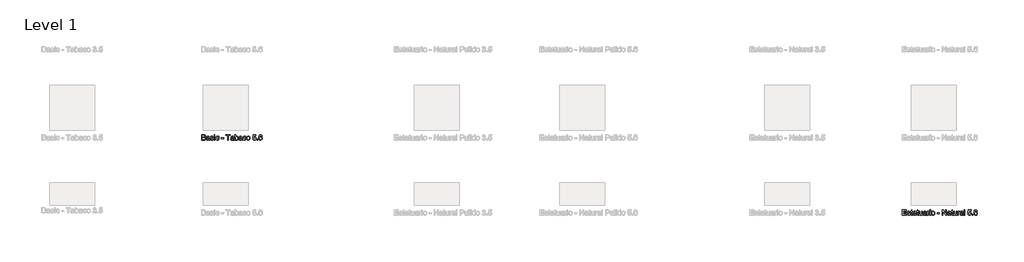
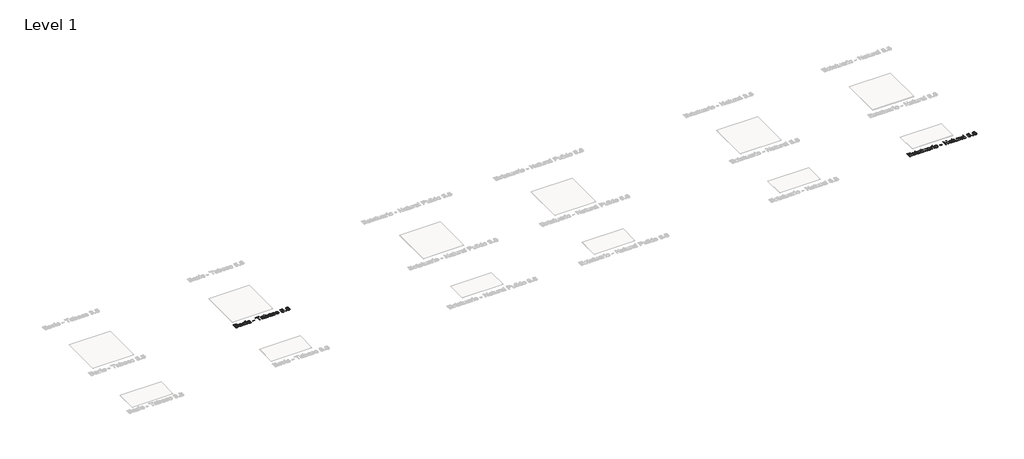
# One storey, part 75 of 80: 2 proxies.
"""IFC4 building model written with IfcOpenShell, lengths in millimetres."""

import ifcopenshell
import ifcopenshell.guid

model = None  # the IFC model being written
_history = None  # IfcOwnerHistory: only IFC2X3 demands one
_inside = {}  # id of a spatial element -> (the spatial element, [elements in it])
_under = {}  # id of a project, library or spatial element -> (it, [spatial elements below it])
_declared = {}  # id of a project -> (the project, [libraries it declares])
_typed = {}  # id of a type object -> (the type object, [elements of that type])
_made_of = {}  # id of a material, layer set ... -> (it, [elements and type objects made of it])


def new_model(schema):
    """Start an empty IFC model of exactly this schema.

    Asked for "IFC4X3", IfcOpenShell would pick the latest addendum, in which some entities
    have other attributes; the version numbers below select the first issue.
    IFC2X3 requires an IfcOwnerHistory on every rooted entity: one is made here for all.
    """
    global model, _history
    if schema == "IFC4X3":
        model = ifcopenshell.file(schema_version=(4, 3, 0, 0))
    else:
        model = ifcopenshell.file(schema=schema)
    _inside.clear()
    _under.clear()
    _declared.clear()
    _typed.clear()
    _made_of.clear()
    _history = None
    if model.schema == "IFC2X3":
        org = make("IfcOrganization", Name="unknown")
        user = make(
            "IfcPersonAndOrganization",
            ThePerson=make("IfcPerson", FamilyName="unknown"),
            TheOrganization=org,
        )
        app = make(
            "IfcApplication",
            ApplicationDeveloper=org,
            Version="unknown",
            ApplicationFullName="unknown",
            ApplicationIdentifier="unknown",
        )
        _history = make(
            "IfcOwnerHistory",
            OwningUser=user,
            OwningApplication=app,
            ChangeAction="ADDED",
            CreationDate=0,
        )
    return model


def make(cls, **values):
    """One entity of the class cls with the attributes given. An attribute that is None is left unset."""
    return model.create_entity(
        cls, **{name: value for name, value in values.items() if value is not None}
    )


def rooted(cls, **values):
    """An entity with a GlobalId (a new one), such as an element, a storey or a relation."""
    return make(cls, GlobalId=ifcopenshell.guid.new(), OwnerHistory=_history, **values)


def si_unit(unit_type, name, prefix=None):
    """IfcSIUnit, for example si_unit("LENGTHUNIT", "METRE", prefix="MILLI")."""
    return make("IfcSIUnit", UnitType=unit_type, Prefix=prefix, Name=name)


def assignment(units):
    """IfcUnitAssignment: the units of a project."""
    return None if units is None else make("IfcUnitAssignment", Units=units)


def point(xyz):
    """IfcCartesianPoint."""
    return None if xyz is None else make("IfcCartesianPoint", Coordinates=xyz)


def direction(xyz):
    """IfcDirection."""
    return None if xyz is None else make("IfcDirection", DirectionRatios=xyz)


def frame(location, z_axis=None, x_axis=None):
    """IfcAxis2Placement3D, a coordinate frame: its origin and axes. An axis left out is left unset."""
    return make(
        "IfcAxis2Placement3D",
        Location=point(location),
        Axis=direction(z_axis),
        RefDirection=direction(x_axis),
    )


def origin():
    """The frame at (0, 0, 0) with its axes left unset."""
    return frame((0.0, 0.0, 0.0))


def origin_with_axes():
    """The frame at (0, 0, 0) with the z axis (0, 0, 1) and the x axis (1, 0, 0) written out."""
    return frame((0.0, 0.0, 0.0), z_axis=(0.0, 0.0, 1.0), x_axis=(1.0, 0.0, 0.0))


def place(relative_to, where):
    """IfcLocalPlacement: puts the frame where relative to a parent placement (None: the world)."""
    return make(
        "IfcLocalPlacement", PlacementRelTo=relative_to, RelativePlacement=where
    )


def context(
    kind, dimensions, precision=None, world=None, true_north=None, identifier=None
):
    """IfcGeometricRepresentationContext, for example the 3D "Model" context."""
    return make(
        "IfcGeometricRepresentationContext",
        ContextIdentifier=identifier,
        ContextType=kind,
        CoordinateSpaceDimension=dimensions,
        Precision=precision,
        WorldCoordinateSystem=world,
        TrueNorth=true_north,
    )


def project(units=None, contexts=None):
    """IfcProject with its units and contexts."""
    return rooted(
        "IfcProject",
        Name="project",
        RepresentationContexts=contexts,
        UnitsInContext=assignment(units),
    )


def spatial(cls, under=None, at=None, **own):
    """A site, building, storey or space (cls), placed at a placement, below another one or the project."""
    s = rooted(cls, ObjectPlacement=at, **own)
    if under is not None:
        _under.setdefault(under.id(), (under, []))[1].append(s)
    return s


def polyline(points):
    """IfcPolyline through the points."""
    return make("IfcPolyline", Points=[point(p) for p in points])


def outline(outer, holes=None, kind="AREA"):
    """IfcArbitraryClosedProfileDef: a profile drawn as a closed curve; with holes, ...WithVoids."""
    if holes is None:
        return make("IfcArbitraryClosedProfileDef", ProfileType=kind, OuterCurve=outer)
    return make(
        "IfcArbitraryProfileDefWithVoids",
        ProfileType=kind,
        OuterCurve=outer,
        InnerCurves=holes,
    )


def extrude(swept, where, along, depth):
    """IfcExtrudedAreaSolid: the profile swept, set in the frame where, extruded along a direction by depth."""
    return make(
        "IfcExtrudedAreaSolid",
        SweptArea=swept,
        Position=where,
        ExtrudedDirection=direction(along),
        Depth=depth,
    )


def shape(context_of_items, identifier, shape_type, items):
    """IfcShapeRepresentation: the items that make up one representation, for example the "Body"."""
    return make(
        "IfcShapeRepresentation",
        ContextOfItems=context_of_items,
        RepresentationIdentifier=identifier,
        RepresentationType=shape_type,
        Items=items,
    )


def made_of(thing, what):
    """Note that an element or type object is made of a material, layer set ...; save() writes the relation."""
    if what is not None:
        _made_of.setdefault(what.id(), (what, []))[1].append(thing)
    return thing


def element(
    cls,
    number,
    at=None,
    inside=None,
    cuts=None,
    type_object=None,
    material=None,
    context=None,
    identifier="Body",
    shape_type=None,
    held_by="IfcProductDefinitionShape",
    body=None,
    shapes=None,
    **own,
):
    """One element of the class cls, such as IfcWall. Its Tag is "e" and its number.

    at: its placement. inside: the storey or other place that contains it. cuts: it is an
    opening in that element (IfcRelVoidsElement). A single representation is given by context,
    identifier, shape_type and body (its items); several are given by shapes. held_by: the class
    of the entity that holds the representations. save() writes the other relations.
    """
    e = rooted(cls, Tag="e%d" % number, ObjectPlacement=at, **own)
    if body is not None:
        shapes = [shape(context, identifier, shape_type, body)]
    if shapes is not None:
        e.Representation = make(held_by, Representations=shapes)
    if inside is not None:
        _inside.setdefault(inside.id(), (inside, []))[1].append(e)
    if cuts is not None:
        rooted(
            "IfcRelVoidsElement", RelatingBuildingElement=cuts, RelatedOpeningElement=e
        )
    if type_object is not None:
        _typed.setdefault(type_object.id(), (type_object, []))[1].append(e)
    return made_of(e, material)


def aggregate(whole, parts):
    """IfcRelAggregates: a whole, such as a stair, and the parts it consists of."""
    return rooted("IfcRelAggregates", RelatingObject=whole, RelatedObjects=parts)


def save(model, path):
    """Write the relations noted so far, then the file.

    IfcRelAggregates (storeys below a building ...), IfcRelContainedInSpatialStructure (elements
    in a storey), IfcRelDefinesByType, IfcRelAssociatesMaterial and IfcRelDeclares: one each for
    every whole, place, type object, material and project.
    """
    for whole, parts in _under.values():
        aggregate(whole, parts)
    for where, things in _inside.values():
        rooted(
            "IfcRelContainedInSpatialStructure",
            RelatedElements=things,
            RelatingStructure=where,
        )
    for kind, things in _typed.values():
        rooted("IfcRelDefinesByType", RelatedObjects=things, RelatingType=kind)
    for what, things in _made_of.values():
        rooted("IfcRelAssociatesMaterial", RelatedObjects=things, RelatingMaterial=what)
    for by, libraries in _declared.values():
        rooted("IfcRelDeclares", RelatingContext=by, RelatedDefinitions=libraries)
    model.write(path)


model = new_model("IFC4")

# Units and contexts
model_context = context("Model", 3, world=origin())
ifc_project = project(units=[si_unit("LENGTHUNIT", "METRE", prefix="MILLI")], contexts=[model_context])

# Site, building, storey
site = spatial("IfcSite", under=ifc_project)
building = spatial("IfcBuilding", under=site)
storey = spatial("IfcBuildingStorey", under=building, Name="Level 1", Elevation=0.0)

# Proxies
placement = place(None, origin())
element("IfcBuildingElementProxy", 1, Name="24\" Arial", ObjectType="24\" Arial", at=placement, inside=storey, context=model_context, shape_type="SweptSolid", body=[
    extrude(outline(polyline([(15900.3085075, 15588.6835141), (15900.3085075, 15706.8373603), (15985.2315844, 15706.8373603), (15985.2315844, 15692.0681295), (15915.0777383, 15692.0681295), (15915.0777383, 15656.9912064), (15981.5392767, 15656.9912064), (15981.5392767, 15642.2219757), (15915.0777383, 15642.2219757), (15915.0777383, 15603.4527449), (15987.0777383, 15603.4527449), (15987.0777383, 15588.6835141), (15900.3085075, 15588.6835141)])), origin_with_axes(), (0.0, 0.0, 1.0), 2.0),
    extrude(outline(polyline([(16001.846969, 15614.529668), (16016.6161998, 15616.3758218), (16023.4527383, 15605.4142834), (16039.1161998, 15601.6065911), (16054.1738921, 15605.0969757), (16059.0777383, 15613.2892834), (16054.1450459, 15619.9238987), (16038.9431229, 15624.1354372), (16016.7027383, 15631.3613987), (16006.9960075, 15639.7988987), (16003.6931229, 15651.7123603), (16006.346969, 15662.717168), (16013.5873536, 15671.1258218), (16022.9767767, 15675.4960141), (16035.6835075, 15677.2988987), (16053.6546613, 15674.3998603), (16065.0777383, 15666.5537064), (16070.1546613, 15653.2988987), (16055.3854306, 15651.4527449), (16049.8325459, 15659.6017834), (16036.8373536, 15662.529668), (16022.7027383, 15659.7315911), (16018.4623536, 15653.2123603), (16020.221969, 15648.9142834), (16025.7315844, 15645.654668), (16038.4527383, 15642.5104372), (16060.1306229, 15635.5585141), (16070.1979306, 15627.6835141), (16073.846969, 15614.8469757), (16069.5633152, 15600.7123603), (16057.2027383, 15590.4575526), (16038.9142767, 15586.8373603), (16024.0224498, 15588.5825526), (16013.1546613, 15593.8181295), (16005.8998536, 15602.4863987), (16001.846969, 15614.529668)])), origin_with_axes(), (0.0, 0.0, 1.0), 2.0),
    extrude(outline(polyline([(16121.846969, 15601.0008218), (16123.6931229, 15588.2508218), (16112.6450459, 15586.8373603), (16100.2700459, 15589.2892834), (16094.096969, 15595.7219757), (16092.3085075, 15612.4815911), (16092.3085075, 15660.6835141), (16081.2315844, 15660.6835141), (16081.2315844, 15675.4527449), (16092.3085075, 15675.4527449), (16092.3085075, 15696.5392834), (16107.0777383, 15705.2219757), (16107.0777383, 15675.4527449), (16121.846969, 15675.4527449), (16121.846969, 15660.6835141), (16107.0777383, 15660.6835141), (16107.0777383, 15612.9142834), (16107.8565844, 15605.2988987), (16110.3806229, 15602.6017834), (16115.4142767, 15601.6065911), (16121.846969, 15601.0008218)])), origin_with_axes(), (0.0, 0.0, 1.0), 2.0),
    extrude(outline(polyline([(16192.0008152, 15599.7604372), (16177.6786998, 15589.7508218), (16161.8565844, 15586.8373603), (16149.5140363, 15588.5897641), (16140.409469, 15593.8469757), (16134.7952863, 15601.8301487), (16132.9238921, 15611.7604372), (16135.7508152, 15623.4431295), (16143.1786998, 15631.9238987), (16153.5200459, 15636.7700526), (16166.2988921, 15638.9912064), (16191.9142767, 15644.0681295), (16192.0008152, 15647.3565911), (16187.9335075, 15658.2604372), (16171.6065844, 15662.529668), (16156.6642767, 15659.6883218), (16149.5392767, 15649.6065911), (16134.7700459, 15651.4527449), (16141.159469, 15665.8758218), (16154.0248536, 15674.3277449), (16173.5104306, 15677.2988987), (16191.409469, 15674.6738987), (16201.5200459, 15668.0825526), (16206.0488921, 15658.0585141), (16206.7700459, 15645.1354372), (16206.7700459, 15626.7604372), (16207.5200459, 15601.1017834), (16210.4623536, 15588.6835141), (16195.6931229, 15588.6835141), (16192.0008152, 15599.7604372)]), holes=[polyline([(16192.0008152, 15629.2988987), (16168.1738921, 15624.7700526), (16155.4671613, 15622.3758218), (16149.7123536, 15618.4815911), (16147.6931229, 15612.7988987), (16152.0921613, 15604.8085141), (16165.0008152, 15601.6065911), (16179.9431229, 15605.1402449), (16189.5777383, 15613.6931295), (16191.9142767, 15625.1162064), (16192.0008152, 15629.2988987)])]), origin_with_axes(), (0.0, 0.0, 1.0), 2.0),
    extrude(outline(polyline([(16258.4623536, 15601.0008218), (16260.3085075, 15588.2508218), (16249.2604306, 15586.8373603), (16236.8854306, 15589.2892834), (16230.7123536, 15595.7219757), (16228.9238921, 15612.4815911), (16228.9238921, 15660.6835141), (16217.846969, 15660.6835141), (16217.846969, 15675.4527449), (16228.9238921, 15675.4527449), (16228.9238921, 15696.5392834), (16243.6931229, 15705.2219757), (16243.6931229, 15675.4527449), (16258.4623536, 15675.4527449), (16258.4623536, 15660.6835141), (16243.6931229, 15660.6835141), (16243.6931229, 15612.9142834), (16244.471969, 15605.2988987), (16246.9960075, 15602.6017834), (16252.0296613, 15601.6065911), (16258.4623536, 15601.0008218)])), origin_with_axes(), (0.0, 0.0, 1.0), 2.0),
    extrude(outline(polyline([(16328.6161998, 15588.6835141), (16328.6161998, 15603.5969757), (16317.0488921, 15591.0272641), (16301.9623536, 15586.8373603), (16288.0729306, 15589.779668), (16278.4960075, 15597.1642834), (16274.096969, 15608.0392834), (16273.2315844, 15621.7700526), (16273.2315844, 15675.4527449), (16288.0008152, 15675.4527449), (16288.0008152, 15628.7219757), (16288.8950459, 15613.6642834), (16294.7363921, 15604.8229372), (16305.7411998, 15601.6065911), (16318.0729306, 15604.8950526), (16326.221969, 15613.8517834), (16328.6161998, 15630.3085141), (16328.6161998, 15675.4527449), (16343.3854306, 15675.4527449), (16343.3854306, 15588.6835141), (16328.6161998, 15588.6835141)])), origin_with_axes(), (0.0, 0.0, 1.0), 2.0),
    extrude(outline(polyline([(16419.0777383, 15599.7604372), (16404.7556229, 15589.7508218), (16388.9335075, 15586.8373603), (16376.5909594, 15588.5897641), (16367.4863921, 15593.8469757), (16361.8722094, 15601.8301487), (16360.0008152, 15611.7604372), (16362.8277383, 15623.4431295), (16370.2556229, 15631.9238987), (16380.596969, 15636.7700526), (16393.3758152, 15638.9912064), (16418.9911998, 15644.0681295), (16419.0777383, 15647.3565911), (16415.0104306, 15658.2604372), (16398.6835075, 15662.529668), (16383.7411998, 15659.6883218), (16376.6161998, 15649.6065911), (16361.846969, 15651.4527449), (16368.2363921, 15665.8758218), (16381.1017767, 15674.3277449), (16400.5873536, 15677.2988987), (16418.4863921, 15674.6738987), (16428.596969, 15668.0825526), (16433.1258152, 15658.0585141), (16433.846969, 15645.1354372), (16433.846969, 15626.7604372), (16434.596969, 15601.1017834), (16437.5392767, 15588.6835141), (16422.7700459, 15588.6835141), (16419.0777383, 15599.7604372)]), holes=[polyline([(16419.0777383, 15629.2988987), (16395.2508152, 15624.7700526), (16382.5440844, 15622.3758218), (16376.7892767, 15618.4815911), (16374.7700459, 15612.7988987), (16379.1690844, 15604.8085141), (16392.0777383, 15601.6065911), (16407.0200459, 15605.1402449), (16416.6546613, 15613.6931295), (16418.9911998, 15625.1162064), (16419.0777383, 15629.2988987)])]), origin_with_axes(), (0.0, 0.0, 1.0), 2.0),
    extrude(outline(polyline([(16454.1546613, 15588.6835141), (16454.1546613, 15675.4527449), (16467.0777383, 15675.4527449), (16467.0777383, 15662.6162064), (16476.2508152, 15674.4431295), (16485.4815844, 15677.2988987), (16500.3085075, 15672.7412064), (16495.3758152, 15659.5008218), (16484.9911998, 15662.529668), (16476.6402383, 15659.6162064), (16471.3181229, 15651.5392834), (16468.9238921, 15634.2892834), (16468.9238921, 15588.6835141), (16454.1546613, 15588.6835141)])), origin_with_axes(), (0.0, 0.0, 1.0), 2.0),
    extrude(outline(polyline([(16509.5392767, 15692.0681295), (16509.5392767, 15706.8373603), (16524.3085075, 15706.8373603), (16524.3085075, 15692.0681295), (16509.5392767, 15692.0681295)])), origin_with_axes(), (0.0, 0.0, 1.0), 2.0),
    extrude(outline(polyline([(16509.5392767, 15588.6835141), (16509.5392767, 15675.4527449), (16524.3085075, 15675.4527449), (16524.3085075, 15588.6835141), (16509.5392767, 15588.6835141)])), origin_with_axes(), (0.0, 0.0, 1.0), 2.0),
    extrude(outline(polyline([(16542.7700459, 15632.0681295), (16545.9647575, 15652.9888026), (16555.5488921, 15667.6931295), (16567.3902383, 15674.8974564), (16581.5681229, 15677.2988987), (16597.0837479, 15674.3746199), (16609.4767767, 15665.6017834), (16617.6005748, 15651.6726968), (16620.3085075, 15633.279668), (16615.5200459, 15607.0008218), (16601.5729306, 15592.1306295), (16581.5681229, 15586.8373603), (16565.8649979, 15589.7508218), (16553.4863921, 15598.4912064), (16545.4491325, 15612.7123603), (16542.7700459, 15632.0681295)]), holes=[polyline([(16557.5392767, 15632.0969757), (16559.2484113, 15618.7303891), (16564.3758152, 15609.2075526), (16572.0921613, 15603.5068314), (16581.5681229, 15601.6065911), (16591.0008152, 15603.5176487), (16598.7027383, 15609.2508218), (16603.8301421, 15618.8998603), (16605.5392767, 15632.5585141), (16603.8193248, 15645.5356776), (16598.659469, 15654.9287064), (16590.9467286, 15660.6294276), (16581.5681229, 15662.529668), (16572.0921613, 15660.6366391), (16564.3758152, 15654.9575526), (16559.2484113, 15645.4563507), (16557.5392767, 15632.0969757)])]), origin_with_axes(), (0.0, 0.0, 1.0), 2.0),
    extrude(outline(polyline([(16675.6931229, 15623.7604372), (16675.6931229, 15638.529668), (16721.846969, 15638.529668), (16721.846969, 15623.7604372), (16675.6931229, 15623.7604372)])), origin_with_axes(), (0.0, 0.0, 1.0), 2.0),
    extrude(outline(polyline([(16786.4623536, 15588.6835141), (16786.4623536, 15706.8373603), (16802.2700459, 15706.8373603), (16864.0008152, 15613.2315911), (16864.0008152, 15706.8373603), (16878.7700459, 15706.8373603), (16878.7700459, 15588.6835141), (16862.9623536, 15588.6835141), (16801.2315844, 15682.3181295), (16801.2315844, 15588.6835141), (16786.4623536, 15588.6835141)])), origin_with_axes(), (0.0, 0.0, 1.0), 2.0),
    extrude(outline(polyline([(16958.1546613, 15599.7604372), (16943.8325459, 15589.7508218), (16928.0104306, 15586.8373603), (16915.6678825, 15588.5897641), (16906.5633152, 15593.8469757), (16900.9491325, 15601.8301487), (16899.0777383, 15611.7604372), (16901.9046613, 15623.4431295), (16909.3325459, 15631.9238987), (16919.6738921, 15636.7700526), (16932.4527383, 15638.9912064), (16958.0681229, 15644.0681295), (16958.1546613, 15647.3565911), (16954.0873536, 15658.2604372), (16937.7604306, 15662.529668), (16922.8181229, 15659.6883218), (16915.6931229, 15649.6065911), (16900.9238921, 15651.4527449), (16907.3133152, 15665.8758218), (16920.1786998, 15674.3277449), (16939.6642767, 15677.2988987), (16957.5633152, 15674.6738987), (16967.6738921, 15668.0825526), (16972.2027383, 15658.0585141), (16972.9238921, 15645.1354372), (16972.9238921, 15626.7604372), (16973.6738921, 15601.1017834), (16976.6161998, 15588.6835141), (16961.846969, 15588.6835141), (16958.1546613, 15599.7604372)]), holes=[polyline([(16958.1546613, 15629.2988987), (16934.3277383, 15624.7700526), (16921.6210075, 15622.3758218), (16915.8661998, 15618.4815911), (16913.846969, 15612.7988987), (16918.2460075, 15604.8085141), (16931.1546613, 15601.6065911), (16946.096969, 15605.1402449), (16955.7315844, 15613.6931295), (16958.0681229, 15625.1162064), (16958.1546613, 15629.2988987)])]), origin_with_axes(), (0.0, 0.0, 1.0), 2.0),
    extrude(outline(polyline([(17024.6161998, 15601.0008218), (17026.4623536, 15588.2508218), (17015.4142767, 15586.8373603), (17003.0392767, 15589.2892834), (16996.8661998, 15595.7219757), (16995.0777383, 15612.4815911), (16995.0777383, 15660.6835141), (16984.0008152, 15660.6835141), (16984.0008152, 15675.4527449), (16995.0777383, 15675.4527449), (16995.0777383, 15696.5392834), (17009.846969, 15705.2219757), (17009.846969, 15675.4527449), (17024.6161998, 15675.4527449), (17024.6161998, 15660.6835141), (17009.846969, 15660.6835141), (17009.846969, 15612.9142834), (17010.6258152, 15605.2988987), (17013.1498536, 15602.6017834), (17018.1835075, 15601.6065911), (17024.6161998, 15601.0008218)])), origin_with_axes(), (0.0, 0.0, 1.0), 2.0),
    extrude(outline(polyline([(17094.7700459, 15588.6835141), (17094.7700459, 15603.5969757), (17083.2027383, 15591.0272641), (17068.1161998, 15586.8373603), (17054.2267767, 15589.779668), (17044.6498536, 15597.1642834), (17040.2508152, 15608.0392834), (17039.3854306, 15621.7700526), (17039.3854306, 15675.4527449), (17054.1546613, 15675.4527449), (17054.1546613, 15628.7219757), (17055.0488921, 15613.6642834), (17060.8902383, 15604.8229372), (17071.8950459, 15601.6065911), (17084.2267767, 15604.8950526), (17092.3758152, 15613.8517834), (17094.7700459, 15630.3085141), (17094.7700459, 15675.4527449), (17109.5392767, 15675.4527449), (17109.5392767, 15588.6835141), (17094.7700459, 15588.6835141)])), origin_with_axes(), (0.0, 0.0, 1.0), 2.0),
    extrude(outline(polyline([(17129.846969, 15588.6835141), (17129.846969, 15675.4527449), (17142.7700459, 15675.4527449), (17142.7700459, 15662.6162064), (17151.9431229, 15674.4431295), (17161.1738921, 15677.2988987), (17176.0008152, 15672.7412064), (17171.0681229, 15659.5008218), (17160.6835075, 15662.529668), (17152.3325459, 15659.6162064), (17147.0104306, 15651.5392834), (17144.6161998, 15634.2892834), (17144.6161998, 15588.6835141), (17129.846969, 15588.6835141)])), origin_with_axes(), (0.0, 0.0, 1.0), 2.0),
    extrude(outline(polyline([(17240.6161998, 15599.7604372), (17226.2940844, 15589.7508218), (17210.471969, 15586.8373603), (17198.1294209, 15588.5897641), (17189.0248536, 15593.8469757), (17183.4106709, 15601.8301487), (17181.5392767, 15611.7604372), (17184.3661998, 15623.4431295), (17191.7940844, 15631.9238987), (17202.1354306, 15636.7700526), (17214.9142767, 15638.9912064), (17240.5296613, 15644.0681295), (17240.6161998, 15647.3565911), (17236.5488921, 15658.2604372), (17220.221969, 15662.529668), (17205.2796613, 15659.6883218), (17198.1546613, 15649.6065911), (17183.3854306, 15651.4527449), (17189.7748536, 15665.8758218), (17202.6402383, 15674.3277449), (17222.1258152, 15677.2988987), (17240.0248536, 15674.6738987), (17250.1354306, 15668.0825526), (17254.6642767, 15658.0585141), (17255.3854306, 15645.1354372), (17255.3854306, 15626.7604372), (17256.1354306, 15601.1017834), (17259.0777383, 15588.6835141), (17244.3085075, 15588.6835141), (17240.6161998, 15599.7604372)]), holes=[polyline([(17240.6161998, 15629.2988987), (17216.7892767, 15624.7700526), (17204.0825459, 15622.3758218), (17198.3277383, 15618.4815911), (17196.3085075, 15612.7988987), (17200.7075459, 15604.8085141), (17213.6161998, 15601.6065911), (17228.5585075, 15605.1402449), (17238.1931229, 15613.6931295), (17240.5296613, 15625.1162064), (17240.6161998, 15629.2988987)])]), origin_with_axes(), (0.0, 0.0, 1.0), 2.0),
    extrude(outline(polyline([(17275.6931229, 15588.6835141), (17275.6931229, 15706.8373603), (17290.4623536, 15706.8373603), (17290.4623536, 15588.6835141), (17275.6931229, 15588.6835141)])), origin_with_axes(), (0.0, 0.0, 1.0), 2.0),
    extrude(outline(polyline([(17355.0777383, 15620.0681295), (17369.846969, 15621.9142834), (17377.2892767, 15606.6979372), (17392.721969, 15601.6065911), (17403.3085075, 15603.3770237), (17411.2411998, 15608.6883218), (17416.1955267, 15616.9275045), (17417.846969, 15627.4815911), (17416.300094, 15637.4190911), (17411.659469, 15645.0200526), (17403.8890363, 15649.8445718), (17392.9527383, 15651.4527449), (17379.9863921, 15648.8854372), (17371.6931229, 15642.2219757), (17356.9238921, 15644.0681295), (17369.846969, 15704.9912064), (17427.0777383, 15704.9912064), (17427.0777383, 15690.2219757), (17381.7892767, 15690.2219757), (17375.471969, 15657.6835141), (17386.0224498, 15664.0873603), (17397.0777383, 15666.2219757), (17410.8770171, 15663.5753411), (17422.3325459, 15655.6354372), (17430.0452863, 15643.5344757), (17432.6161998, 15628.404668), (17430.3012959, 15613.6354372), (17423.3565844, 15601.0008218), (17410.0585075, 15590.3782257), (17392.6642767, 15586.8373603), (17378.1582671, 15589.1126007), (17366.6017767, 15595.9383218), (17358.6799017, 15606.5212545), (17355.0777383, 15620.0681295)])), origin_with_axes(), (0.0, 0.0, 1.0), 2.0),
    extrude(outline(polyline([(17452.9238921, 15588.6835141), (17452.9238921, 15603.4527449), (17467.6931229, 15603.4527449), (17467.6931229, 15588.6835141), (17452.9238921, 15588.6835141)])), origin_with_axes(), (0.0, 0.0, 1.0), 2.0),
    extrude(outline(polyline([(17567.3854306, 15675.4527449), (17552.6161998, 15673.6065911), (17547.0200459, 15685.9238987), (17540.3205267, 15690.5320718), (17532.221969, 15692.0681295), (17518.8950459, 15688.4912064), (17508.8133152, 15675.0633218), (17504.6161998, 15648.7412064), (17517.6402383, 15660.5248603), (17533.7796613, 15664.3758218), (17547.4238921, 15661.7436103), (17558.8758152, 15653.8469757), (17566.6426421, 15641.7820718), (17569.2315844, 15626.6450526), (17564.3565844, 15606.2652449), (17550.9431229, 15591.842168), (17531.5873536, 15586.8373603), (17514.831344, 15590.154668), (17501.4863921, 15600.1065911), (17492.7568248, 15617.6738987), (17489.846969, 15643.8373603), (17493.0777383, 15673.2532257), (17502.7700459, 15693.3662064), (17516.003219, 15703.4695718), (17533.1450459, 15706.8373603), (17546.1041806, 15704.7532257), (17556.4815844, 15698.5008218), (17563.7508152, 15688.5705334), (17567.3854306, 15675.4527449)]), holes=[polyline([(17504.6161998, 15626.8758218), (17508.034469, 15614.0825526), (17517.1210075, 15604.7940911), (17530.4335075, 15601.6065911), (17540.1799017, 15603.2580334), (17547.8421613, 15608.2123603), (17552.8073056, 15616.0008218), (17554.4623536, 15626.154668), (17552.8289402, 15635.9010622), (17547.9286998, 15643.3325526), (17540.1366325, 15648.0380814), (17529.8277383, 15649.6065911), (17520.0957671, 15648.0380814), (17511.9575459, 15643.3325526), (17506.4515363, 15636.0813507), (17504.6161998, 15626.8758218)])]), origin_with_axes(), (0.0, 0.0, 1.0), 2.0),
])
element("IfcBuildingElementProxy", 2, Name="24\" Arial", ObjectType="24\" Arial", at=placement, inside=storey, context=model_context, shape_type="SweptSolid", body=[
    extrude(outline(polyline([(300.0008152, 17258.6980297), (300.0008152, 17376.8518759), (345.0873536, 17376.8518759), (367.1690844, 17373.3759143), (380.2075459, 17362.6884143), (384.9238921, 17347.5730297), (380.9575459, 17333.7701451), (368.971969, 17323.3134143), (383.5248536, 17312.2941836), (388.6161998, 17293.9191836), (385.1402383, 17278.0393759), (376.5296613, 17266.7316836), (363.6786998, 17260.7316836), (344.7411998, 17258.6980297), (300.0008152, 17258.6980297)]), holes=[polyline([(314.7700459, 17273.4672605), (345.0585075, 17273.4672605), (356.0200459, 17274.0441836), (365.2940844, 17277.2605297), (371.4383152, 17283.8230297), (373.846969, 17293.7749528), (371.0200459, 17305.255722), (361.8613921, 17312.1066836), (343.6161998, 17314.0826451), (314.7700459, 17314.0826451), (314.7700459, 17273.4672605)]), polyline([(314.7700459, 17328.8518759), (341.7411998, 17328.8518759), (357.4911998, 17330.1211066), (366.9671613, 17335.5874528), (370.1546613, 17345.2076451), (367.1835075, 17354.8422605), (358.6738921, 17360.5393759), (339.6931229, 17362.0826451), (314.7700459, 17362.0826451), (314.7700459, 17328.8518759)])]), origin_with_axes(), (0.0, 0.0, 1.0), 2.0),
    extrude(outline(polyline([(462.4623536, 17269.7749528), (448.1402383, 17259.7653374), (432.3181229, 17256.8518759), (419.9755748, 17258.6042797), (410.8710075, 17263.8614912), (405.2568248, 17271.8446643), (403.3854306, 17281.7749528), (406.2123536, 17293.4576451), (413.6402383, 17301.9384143), (423.9815844, 17306.7845682), (436.7604306, 17309.005722), (462.3758152, 17314.0826451), (462.4623536, 17317.3711066), (458.3950459, 17328.2749528), (442.0681229, 17332.5441836), (427.1258152, 17329.7028374), (420.0008152, 17319.6211066), (405.2315844, 17321.4672605), (411.6210075, 17335.8903374), (424.4863921, 17344.3422605), (443.971969, 17347.3134143), (461.8710075, 17344.6884143), (471.9815844, 17338.0970682), (476.5104306, 17328.0730297), (477.2315844, 17315.1499528), (477.2315844, 17296.7749528), (477.9815844, 17271.1162989), (480.9238921, 17258.6980297), (466.1546613, 17258.6980297), (462.4623536, 17269.7749528)]), holes=[polyline([(462.4623536, 17299.3134143), (438.6354306, 17294.7845682), (425.9286998, 17292.3903374), (420.1738921, 17288.4961066), (418.1546613, 17282.8134143), (422.5536998, 17274.8230297), (435.4623536, 17271.6211066), (450.4046613, 17275.1547605), (460.0392767, 17283.7076451), (462.3758152, 17295.130722), (462.4623536, 17299.3134143)])]), origin_with_axes(), (0.0, 0.0, 1.0), 2.0),
    extrude(outline(polyline([(492.0008152, 17284.5441836), (506.7700459, 17286.3903374), (513.6065844, 17275.4287989), (529.2700459, 17271.6211066), (544.3277383, 17275.1114912), (549.2315844, 17283.3037989), (544.2988921, 17289.9384143), (529.096969, 17294.1499528), (506.8565844, 17301.3759143), (497.1498536, 17309.8134143), (493.846969, 17321.7268759), (496.5008152, 17332.7316836), (503.7411998, 17341.1403374), (513.1306229, 17345.5105297), (525.8373536, 17347.3134143), (543.8085075, 17344.4143759), (555.2315844, 17336.568222), (560.3085075, 17323.3134143), (545.5392767, 17321.4672605), (539.9863921, 17329.6162989), (526.9911998, 17332.5441836), (512.8565844, 17329.7461066), (508.6161998, 17323.2268759), (510.3758152, 17318.9287989), (515.8854306, 17315.6691836), (528.6065844, 17312.5249528), (550.284469, 17305.5730297), (560.3517767, 17297.6980297), (564.0008152, 17284.8614912), (559.7171613, 17270.7268759), (547.3565844, 17260.4720682), (529.0681229, 17256.8518759), (514.1762959, 17258.5970682), (503.3085075, 17263.8326451), (496.0536998, 17272.5009143), (492.0008152, 17284.5441836)])), origin_with_axes(), (0.0, 0.0, 1.0), 2.0),
    extrude(outline(polyline([(580.6161998, 17258.6980297), (580.6161998, 17345.4672605), (595.3854306, 17345.4672605), (595.3854306, 17258.6980297), (580.6161998, 17258.6980297)])), origin_with_axes(), (0.0, 0.0, 1.0), 2.0),
    extrude(outline(polyline([(580.6161998, 17362.0826451), (580.6161998, 17376.8518759), (595.3854306, 17376.8518759), (595.3854306, 17362.0826451), (580.6161998, 17362.0826451)])), origin_with_axes(), (0.0, 0.0, 1.0), 2.0),
    extrude(outline(polyline([(672.9238921, 17290.0826451), (687.6931229, 17288.2364912), (683.5753344, 17275.1006739), (675.8373536, 17265.1739912), (665.2075459, 17258.9324047), (652.4142767, 17256.8518759), (636.7039402, 17259.7545201), (624.4190844, 17268.4624528), (616.4899979, 17282.5934624), (613.846969, 17301.7653374), (618.3613921, 17326.2989912), (624.0585075, 17335.4973086), (632.1210075, 17342.0634143), (652.2123536, 17347.3134143), (664.6919209, 17345.5105297), (674.6690844, 17340.1018759), (681.8265363, 17331.3759143), (685.846969, 17319.6211066), (671.0777383, 17317.7749528), (664.2267767, 17328.8374528), (652.3277383, 17332.5441836), (642.7832671, 17330.7196643), (635.2075459, 17325.2461066), (630.2640363, 17315.8278374), (628.6161998, 17302.1691836), (630.2279786, 17288.3266355), (635.0633152, 17278.8759143), (642.5020171, 17273.4348086), (651.9238921, 17271.6211066), (665.8421613, 17276.1499528), (672.9238921, 17290.0826451)])), origin_with_axes(), (0.0, 0.0, 1.0), 2.0),
    extrude(outline(polyline([(739.3854306, 17293.7749528), (739.3854306, 17308.5441836), (785.5392767, 17308.5441836), (785.5392767, 17293.7749528), (739.3854306, 17293.7749528)])), origin_with_axes(), (0.0, 0.0, 1.0), 2.0),
    extrude(outline(polyline([(879.6931229, 17258.6980297), (879.6931229, 17362.0826451), (840.9238921, 17362.0826451), (840.9238921, 17376.8518759), (933.2315844, 17376.8518759), (933.2315844, 17362.0826451), (894.4623536, 17362.0826451), (894.4623536, 17258.6980297), (879.6931229, 17258.6980297)])), origin_with_axes(), (0.0, 0.0, 1.0), 2.0),
    extrude(outline(polyline([(1003.3854306, 17269.7749528), (989.0633152, 17259.7653374), (973.2411998, 17256.8518759), (960.8986517, 17258.6042797), (951.7940844, 17263.8614912), (946.1799017, 17271.8446643), (944.3085075, 17281.7749528), (947.1354306, 17293.4576451), (954.5633152, 17301.9384143), (964.9046613, 17306.7845682), (977.6835075, 17309.005722), (1003.2988921, 17314.0826451), (1003.3854306, 17317.3711066), (999.3181229, 17328.2749528), (982.9911998, 17332.5441836), (968.0488921, 17329.7028374), (960.9238921, 17319.6211066), (946.1546613, 17321.4672605), (952.5440844, 17335.8903374), (965.409469, 17344.3422605), (984.8950459, 17347.3134143), (1002.7940844, 17344.6884143), (1012.9046613, 17338.0970682), (1017.4335075, 17328.0730297), (1018.1546613, 17315.1499528), (1018.1546613, 17296.7749528), (1018.9046613, 17271.1162989), (1021.846969, 17258.6980297), (1007.0777383, 17258.6980297), (1003.3854306, 17269.7749528)]), holes=[polyline([(1003.3854306, 17299.3134143), (979.5585075, 17294.7845682), (966.8517767, 17292.3903374), (961.096969, 17288.4961066), (959.0777383, 17282.8134143), (963.4767767, 17274.8230297), (976.3854306, 17271.6211066), (991.3277383, 17275.1547605), (1000.9623536, 17283.7076451), (1003.2988921, 17295.130722), (1003.3854306, 17299.3134143)])]), origin_with_axes(), (0.0, 0.0, 1.0), 2.0),
    extrude(outline(polyline([(1053.2315844, 17258.6980297), (1038.4623536, 17258.6980297), (1038.4623536, 17376.8518759), (1053.2315844, 17376.8518759), (1053.2315844, 17333.0345682), (1063.5729306, 17343.7437028), (1076.4238921, 17347.3134143), (1091.221969, 17344.0970682), (1102.7027383, 17335.0537989), (1109.7556229, 17320.9912989), (1112.3085075, 17303.380722), (1109.6654786, 17283.6643759), (1101.7363921, 17268.9961066), (1090.1005748, 17259.8879336), (1076.3373536, 17256.8518759), (1063.2051421, 17260.7677412), (1053.2315844, 17272.5153374), (1053.2315844, 17258.6980297)]), holes=[polyline([(1053.2315844, 17302.6884143), (1057.2700459, 17282.0345682), (1065.0080267, 17274.224472), (1075.0681229, 17271.6211066), (1083.5921613, 17273.5393759), (1090.8758152, 17279.2941836), (1095.8734113, 17288.849472), (1097.5392767, 17302.1691836), (1095.9419209, 17315.6836066), (1091.1498536, 17325.130722), (1084.0933633, 17330.6908182), (1075.7027383, 17332.5441836), (1067.1786998, 17330.6259143), (1059.8950459, 17324.8711066), (1054.8974498, 17315.4888951), (1053.2315844, 17302.6884143)])]), origin_with_axes(), (0.0, 0.0, 1.0), 2.0),
    extrude(outline(polyline([(1184.3085075, 17269.7749528), (1169.9863921, 17259.7653374), (1154.1642767, 17256.8518759), (1141.8217286, 17258.6042797), (1132.7171613, 17263.8614912), (1127.1029786, 17271.8446643), (1125.2315844, 17281.7749528), (1128.0585075, 17293.4576451), (1135.4863921, 17301.9384143), (1145.8277383, 17306.7845682), (1158.6065844, 17309.005722), (1184.221969, 17314.0826451), (1184.3085075, 17317.3711066), (1180.2411998, 17328.2749528), (1163.9142767, 17332.5441836), (1148.971969, 17329.7028374), (1141.846969, 17319.6211066), (1127.0777383, 17321.4672605), (1133.4671613, 17335.8903374), (1146.3325459, 17344.3422605), (1165.8181229, 17347.3134143), (1183.7171613, 17344.6884143), (1193.8277383, 17338.0970682), (1198.3565844, 17328.0730297), (1199.0777383, 17315.1499528), (1199.0777383, 17296.7749528), (1199.8277383, 17271.1162989), (1202.7700459, 17258.6980297), (1188.0008152, 17258.6980297), (1184.3085075, 17269.7749528)]), holes=[polyline([(1184.3085075, 17299.3134143), (1160.4815844, 17294.7845682), (1147.7748536, 17292.3903374), (1142.0200459, 17288.4961066), (1140.0008152, 17282.8134143), (1144.3998536, 17274.8230297), (1157.3085075, 17271.6211066), (1172.2508152, 17275.1547605), (1181.8854306, 17283.7076451), (1184.221969, 17295.130722), (1184.3085075, 17299.3134143)])]), origin_with_axes(), (0.0, 0.0, 1.0), 2.0),
    extrude(outline(polyline([(1274.7700459, 17290.0826451), (1289.5392767, 17288.2364912), (1285.4214883, 17275.1006739), (1277.6835075, 17265.1739912), (1267.0536998, 17258.9324047), (1254.2604306, 17256.8518759), (1238.550094, 17259.7545201), (1226.2652383, 17268.4624528), (1218.3361517, 17282.5934624), (1215.6931229, 17301.7653374), (1220.2075459, 17326.2989912), (1225.9046613, 17335.4973086), (1233.9671613, 17342.0634143), (1254.0585075, 17347.3134143), (1266.5380748, 17345.5105297), (1276.5152383, 17340.1018759), (1283.6726902, 17331.3759143), (1287.6931229, 17319.6211066), (1272.9238921, 17317.7749528), (1266.0729306, 17328.8374528), (1254.1738921, 17332.5441836), (1244.6294209, 17330.7196643), (1237.0536998, 17325.2461066), (1232.1101902, 17315.8278374), (1230.4623536, 17302.1691836), (1232.0741325, 17288.3266355), (1236.909469, 17278.8759143), (1244.3481709, 17273.4348086), (1253.7700459, 17271.6211066), (1267.6883152, 17276.1499528), (1274.7700459, 17290.0826451)])), origin_with_axes(), (0.0, 0.0, 1.0), 2.0),
    extrude(outline(polyline([(1298.7700459, 17302.0826451), (1301.9647575, 17323.0033182), (1311.5488921, 17337.7076451), (1323.3902383, 17344.911972), (1337.5681229, 17347.3134143), (1353.0837479, 17344.3891355), (1365.4767767, 17335.6162989), (1373.6005748, 17321.6872124), (1376.3085075, 17303.2941836), (1371.5200459, 17277.0153374), (1357.5729306, 17262.1451451), (1337.5681229, 17256.8518759), (1321.8649979, 17259.7653374), (1309.4863921, 17268.505722), (1301.4491325, 17282.7268759), (1298.7700459, 17302.0826451)]), holes=[polyline([(1313.5392767, 17302.1114912), (1315.2484113, 17288.7449047), (1320.3758152, 17279.2220682), (1328.0921613, 17273.521347), (1337.5681229, 17271.6211066), (1347.0008152, 17273.5321643), (1354.7027383, 17279.2653374), (1359.8301421, 17288.9143759), (1361.5392767, 17302.5730297), (1359.8193248, 17315.5501932), (1354.659469, 17324.943222), (1346.9467286, 17330.6439432), (1337.5681229, 17332.5441836), (1328.0921613, 17330.6511547), (1320.3758152, 17324.9720682), (1315.2484113, 17315.4708662), (1313.5392767, 17302.1114912)])]), origin_with_axes(), (0.0, 0.0, 1.0), 2.0),
    extrude(outline(polyline([(1435.3854306, 17290.0826451), (1450.1546613, 17291.9287989), (1457.596969, 17276.7124528), (1473.0296613, 17271.6211066), (1483.6161998, 17273.3915393), (1491.5488921, 17278.7028374), (1496.503219, 17286.9420201), (1498.1546613, 17297.4961066), (1496.6077863, 17307.4336066), (1491.9671613, 17315.0345682), (1484.1967286, 17319.8590874), (1473.2604306, 17321.4672605), (1460.2940844, 17318.8999528), (1452.0008152, 17312.2364912), (1437.2315844, 17314.0826451), (1450.1546613, 17375.005722), (1507.3854306, 17375.005722), (1507.3854306, 17360.2364912), (1462.096969, 17360.2364912), (1455.7796613, 17327.6980297), (1466.3301421, 17334.1018759), (1477.3854306, 17336.2364912), (1491.1847094, 17333.5898566), (1502.6402383, 17325.6499528), (1510.3529786, 17313.5489912), (1512.9238921, 17298.4191836), (1510.6089883, 17283.6499528), (1503.6642767, 17271.0153374), (1490.3661998, 17260.3927412), (1472.971969, 17256.8518759), (1458.4659594, 17259.1271162), (1446.909469, 17265.9528374), (1438.987594, 17276.5357701), (1435.3854306, 17290.0826451)])), origin_with_axes(), (0.0, 0.0, 1.0), 2.0),
    extrude(outline(polyline([(1533.2315844, 17258.6980297), (1533.2315844, 17273.4672605), (1548.0008152, 17273.4672605), (1548.0008152, 17258.6980297), (1533.2315844, 17258.6980297)])), origin_with_axes(), (0.0, 0.0, 1.0), 2.0),
    extrude(outline(polyline([(1647.6931229, 17345.4672605), (1632.9238921, 17343.6211066), (1627.3277383, 17355.9384143), (1620.628219, 17360.5465874), (1612.5296613, 17362.0826451), (1599.2027383, 17358.505722), (1589.1210075, 17345.0778374), (1584.9238921, 17318.755722), (1597.9479306, 17330.5393759), (1614.0873536, 17334.3903374), (1627.7315844, 17331.7581259), (1639.1835075, 17323.8614912), (1646.9503344, 17311.7965874), (1649.5392767, 17296.6595682), (1644.6642767, 17276.2797605), (1631.2508152, 17261.8566836), (1611.8950459, 17256.8518759), (1595.1390363, 17260.1691836), (1581.7940844, 17270.1211066), (1573.0645171, 17287.6884143), (1570.1546613, 17313.8518759), (1573.3854306, 17343.2677412), (1583.0777383, 17363.380722), (1596.3109113, 17373.4840874), (1613.4527383, 17376.8518759), (1626.4118729, 17374.7677412), (1636.7892767, 17368.5153374), (1644.0585075, 17358.5850489), (1647.6931229, 17345.4672605)]), holes=[polyline([(1584.9238921, 17296.8903374), (1588.3421613, 17284.0970682), (1597.4286998, 17274.8086066), (1610.7411998, 17271.6211066), (1620.487594, 17273.2725489), (1628.1498536, 17278.2268759), (1633.1149979, 17286.0153374), (1634.7700459, 17296.1691836), (1633.1366325, 17305.9155778), (1628.2363921, 17313.3470682), (1620.4443248, 17318.052597), (1610.1354306, 17319.6211066), (1600.4034594, 17318.052597), (1592.2652383, 17313.3470682), (1586.7592286, 17306.0958662), (1584.9238921, 17296.8903374)])]), origin_with_axes(), (0.0, 0.0, 1.0), 2.0),
])

save(model, "model.ifc")
